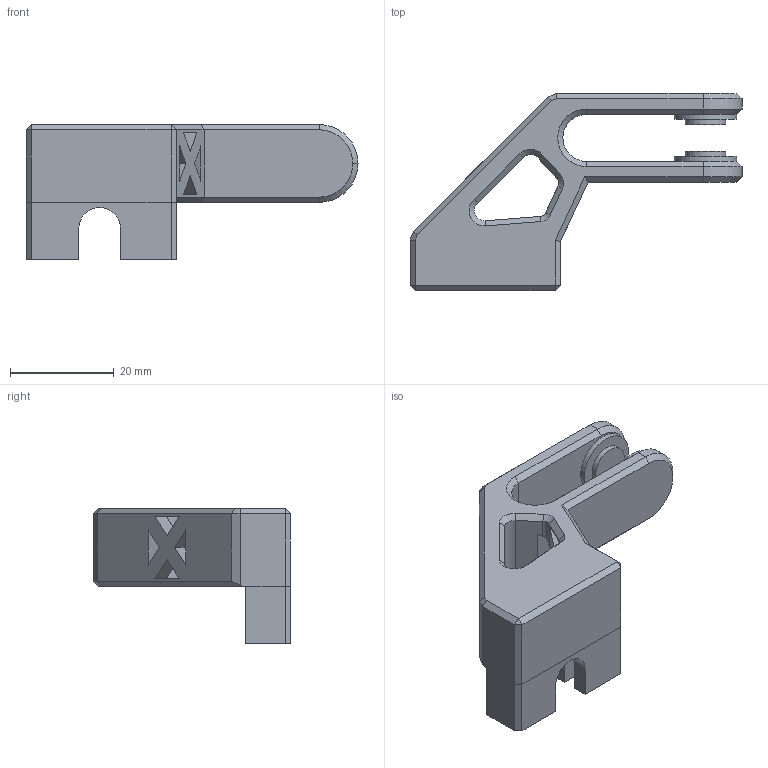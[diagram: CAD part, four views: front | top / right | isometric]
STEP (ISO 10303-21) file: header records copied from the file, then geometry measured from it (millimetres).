
FILE_DESCRIPTION(('FreeCAD Model'),'2;1');
FILE_NAME('Open CASCADE Shape Model','2021-09-08T16:38:03',('Author'),( ''),'Open CASCADE STEP processor 7.5','FreeCAD','Unknown');
FILE_SCHEMA(('AUTOMOTIVE_DESIGN { 1 0 10303 214 1 1 1 1 }'));
Length unit declared in the file: millimetre
Products named in the file (1): Body
Bounding box: 64.03 x 37.97 x 26 mm (x, y, z)
Volume: 14228.6 mm3; surface area: 8090.4 mm2
Topology: 1 solids, 1 shells, 141 faces, 360 edges, 221 vertices
Faces by surface type: plane 106, cone 18, cylinder 17
Full cylindrical faces by diameter (mm): 7.8 x2, 12 x2
Entity records: 8963 total; most frequent: CARTESIAN_POINT 1575, DIRECTION 1397, LINE 978, VECTOR 978, ORIENTED_EDGE 720, PCURVE 720, DEFINITIONAL_REPRESENTATION 720, EDGE_CURVE 360
